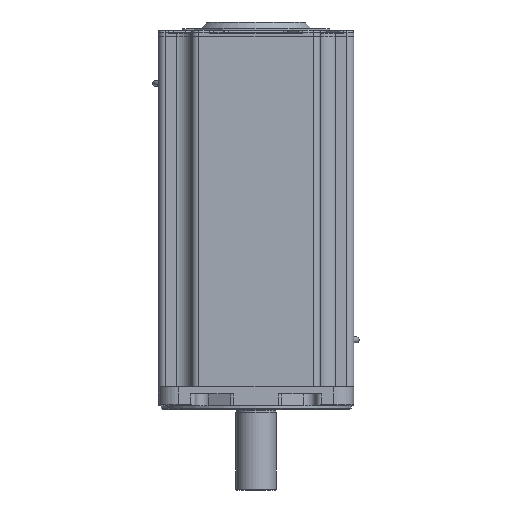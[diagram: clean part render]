
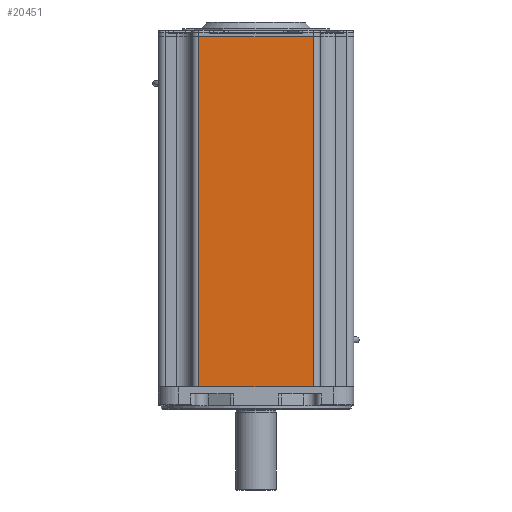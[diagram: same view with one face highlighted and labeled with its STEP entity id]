
A CAD part, front view. The second image highlights one B-rep face of the part: STEP entity #20451.
In plain terms, the highlighted planar face has unit normal (0, -1, 0).
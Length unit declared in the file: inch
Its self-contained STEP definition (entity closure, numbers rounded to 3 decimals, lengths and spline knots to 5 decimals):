
#5605=CARTESIAN_POINT('',(2.14,-3.64,13.41));
#5606=VERTEX_POINT('',#5605);
#5818=CARTESIAN_POINT('',(-2.14,-3.64,13.41));
#5819=VERTEX_POINT('',#5818);
#5826=CARTESIAN_POINT('',(-2.14,-3.64,13.41));
#5827=DIRECTION('',(1.0,0.0,0.0));
#5828=VECTOR('',#5827,4.28);
#5829=LINE('',#5826,#5828);
#5830=EDGE_CURVE('',#5819,#5606,#5829,.T.);
#7876=CARTESIAN_POINT('',(-2.14,-3.64,0.35));
#7877=VERTEX_POINT('',#7876);
#7885=CARTESIAN_POINT('',(-2.14,-3.64,0.35));
#7886=DIRECTION('',(0.0,0.0,1.0));
#7887=VECTOR('',#7886,13.06);
#7888=LINE('',#7885,#7887);
#7889=EDGE_CURVE('',#7877,#5819,#7888,.T.);
#20416=CARTESIAN_POINT('',(2.14,-3.64,0.35));
#20417=VERTEX_POINT('',#20416);
#20418=CARTESIAN_POINT('',(2.14,-3.64,13.41));
#20419=DIRECTION('',(0.0,0.0,-1.0));
#20420=VECTOR('',#20419,13.06);
#20421=LINE('',#20418,#20420);
#20422=EDGE_CURVE('',#5606,#20417,#20421,.T.);
#20435=CARTESIAN_POINT('',(3.64,-3.64,0.0));
#20436=DIRECTION('',(0.0,-1.0,0.0));
#20437=DIRECTION('',(0.0,0.0,-1.0));
#20438=AXIS2_PLACEMENT_3D('',#20435,#20436,#20437);
#20439=PLANE('',#20438);
#20440=ORIENTED_EDGE('',*,*,#5830,.F.);
#20441=ORIENTED_EDGE('',*,*,#7889,.F.);
#20442=CARTESIAN_POINT('',(2.14,-3.64,0.35));
#20443=DIRECTION('',(-1.0,0.0,0.0));
#20444=VECTOR('',#20443,4.28);
#20445=LINE('',#20442,#20444);
#20446=EDGE_CURVE('',#20417,#7877,#20445,.T.);
#20447=ORIENTED_EDGE('',*,*,#20446,.F.);
#20448=ORIENTED_EDGE('',*,*,#20422,.F.);
#20449=EDGE_LOOP('',(#20440,#20441,#20447,#20448));
#20450=FACE_OUTER_BOUND('',#20449,.T.);
#20451=ADVANCED_FACE('',(#20450),#20439,.T.);
